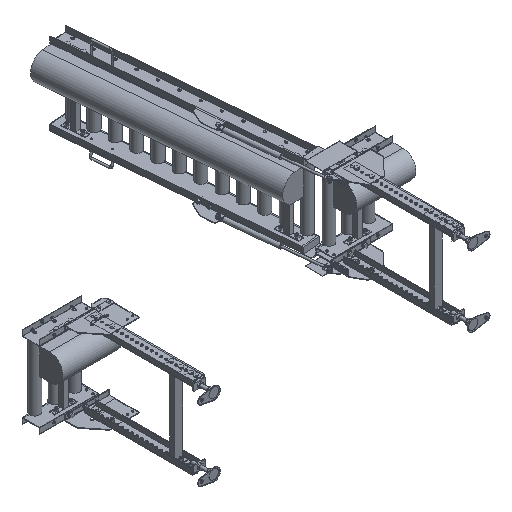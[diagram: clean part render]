
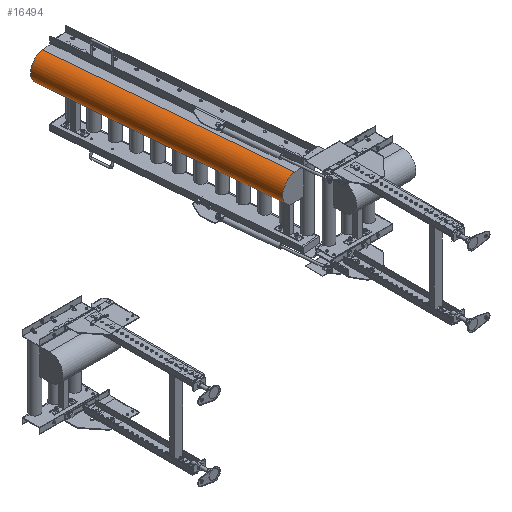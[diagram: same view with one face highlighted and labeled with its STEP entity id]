
A CAD part, isometric view. The second image highlights one B-rep face of the part: STEP entity #16494.
In plain terms, the highlighted cylindrical face has radius 66.89 mm (diameter 133.78 mm), a partial arc.
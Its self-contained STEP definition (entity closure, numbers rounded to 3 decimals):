
#5 = LINE ( 'NONE', #52948, #71445 ) ;
#4426 = VERTEX_POINT ( 'NONE', #9011 ) ;
#4595 = VERTEX_POINT ( 'NONE', #22636 ) ;
#7125 = ORIENTED_EDGE ( 'NONE', *, *, #71390, .T. ) ;
#7848 = AXIS2_PLACEMENT_3D ( 'NONE', #38081, #67697, #9256 ) ;
#9011 = CARTESIAN_POINT ( 'NONE',  ( -87.269, 18.539, 179.5 ) ) ;
#9200 = DIRECTION ( 'NONE',  ( -0.087, 0.996, 0. ) ) ;
#9256 = DIRECTION ( 'NONE',  ( 0., 0., 1. ) ) ;
#10891 = AXIS2_PLACEMENT_3D ( 'NONE', #30415, #24096, #53185 ) ;
#14315 = CARTESIAN_POINT ( 'NONE',  ( -190.216, 1196.047, 112.61 ) ) ;
#14736 = AXIS2_PLACEMENT_3D ( 'NONE', #14315, #55518, #21118 ) ;
#16494 = ADVANCED_FACE ( 'NONE', ( #41495 ), #18879, .T. ) ;
#18879 = CYLINDRICAL_SURFACE ( 'NONE', #7848, 66.89 ) ;
#19624 = CARTESIAN_POINT ( 'NONE',  ( -190.216, 1196.047, 179.5 ) ) ;
#21118 = DIRECTION ( 'NONE',  ( 0., 0., 1. ) ) ;
#22636 = CARTESIAN_POINT ( 'NONE',  ( -87.269, 18.539, 45.72 ) ) ;
#24096 = DIRECTION ( 'NONE',  ( 0.087, -0.996, 0. ) ) ;
#25030 = EDGE_CURVE ( 'NONE', #4595, #44858, #46006, .T. ) ;
#30415 = CARTESIAN_POINT ( 'NONE',  ( -87.269, 18.539, 112.61 ) ) ;
#35252 = DIRECTION ( 'NONE',  ( -0.087, 0.996, 0. ) ) ;
#38081 = CARTESIAN_POINT ( 'NONE',  ( -71.797, -158.438, 112.61 ) ) ;
#38587 = ORIENTED_EDGE ( 'NONE', *, *, #67937, .F. ) ;
#38733 = EDGE_CURVE ( 'NONE', #4426, #71227, #5, .T. ) ;
#41495 = FACE_OUTER_BOUND ( 'NONE', #61975, .T. ) ;
#44340 = CARTESIAN_POINT ( 'NONE',  ( -71.797, -158.438, 45.72 ) ) ;
#44858 = VERTEX_POINT ( 'NONE', #51015 ) ;
#46006 = LINE ( 'NONE', #44340, #63191 ) ;
#51015 = CARTESIAN_POINT ( 'NONE',  ( -190.216, 1196.047, 45.72 ) ) ;
#52948 = CARTESIAN_POINT ( 'NONE',  ( -71.797, -158.438, 179.5 ) ) ;
#53185 = DIRECTION ( 'NONE',  ( 0., 0., -1. ) ) ;
#55518 = DIRECTION ( 'NONE',  ( 0.087, -0.996, 0. ) ) ;
#60421 = ORIENTED_EDGE ( 'NONE', *, *, #38733, .T. ) ;
#61975 = EDGE_LOOP ( 'NONE', ( #38587, #60421, #7125, #70138 ) ) ;
#63191 = VECTOR ( 'NONE', #9200, 1000. ) ;
#64916 = CIRCLE ( 'NONE', #10891, 66.89 ) ;
#67697 = DIRECTION ( 'NONE',  ( -0.087, 0.996, 0. ) ) ;
#67937 = EDGE_CURVE ( 'NONE', #4426, #4595, #64916, .T. ) ;
#70138 = ORIENTED_EDGE ( 'NONE', *, *, #25030, .F. ) ;
#71227 = VERTEX_POINT ( 'NONE', #19624 ) ;
#71390 = EDGE_CURVE ( 'NONE', #71227, #44858, #74207, .T. ) ;
#71445 = VECTOR ( 'NONE', #35252, 1000. ) ;
#74207 = CIRCLE ( 'NONE', #14736, 66.89 ) ;
